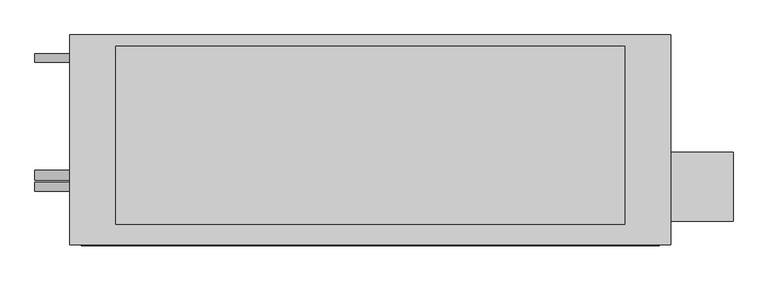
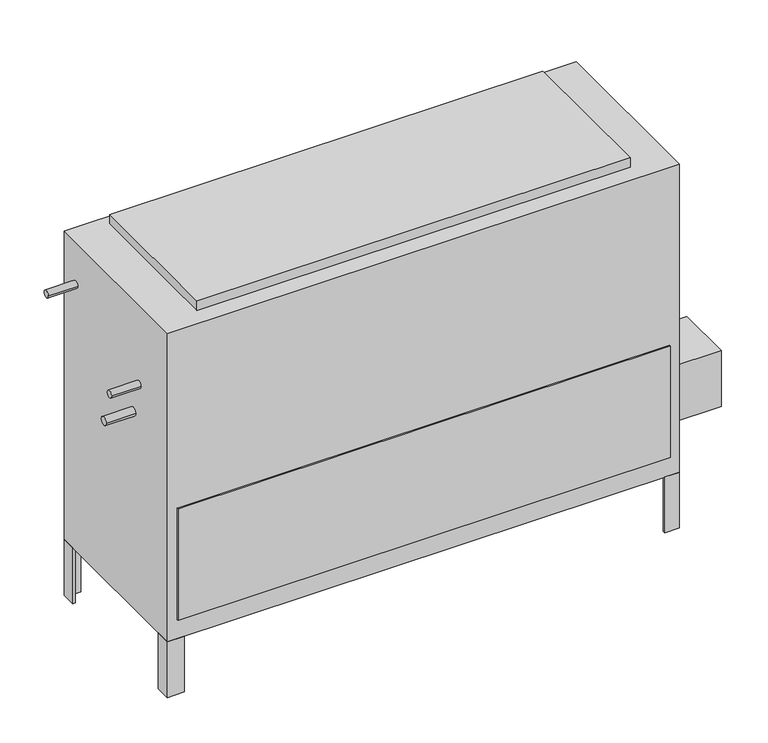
"""IFC4 building model written with IfcOpenShell, lengths in millimetres: proxy geometry, Concealed_High_Capacity_Vertical_Fan_Coil_Unit_-_42DDA_-_CARRIER_-_2-Pipe_Cool-EHeat_LH_2022 : Size 18 - 277v/60Hz/1Ph - 6 Row 12.0kW."""

from ifc_helpers import new_model, si_unit, point, frame, frame_2d, origin, origin_with_axes, place, context, project, spatial, polyline, circle_curve, trimmed, segment, composite_curve, outline, extrude, source, transform, mapped, element, save


def mechanical_equipment_1c3f9d2c(model_context):
    return source(origin(), model_context, "Body", "SweptSolid", [
        extrude(outline(polyline([(812.8, -417.5125), (812.8, -265.1125), (949.325, -265.1125), (949.325, -417.5125), (812.8, -417.5125)])), frame((0.0, 0.0, 101.6), z_axis=(0.0, 0.0, 1.0), x_axis=(1.0, 0.0, 0.0)), (0.0, 0.0, 1.0), 152.4),
        extrude(outline(polyline([(812.8, -46.0375), (806.45, -46.0375), (806.45, -14.2875), (774.7, -14.2875), (774.7, -7.9375), (812.8, -7.9375), (812.8, -46.0375)])), frame((0.0, 0.0, -152.4), z_axis=(0.0, 0.0, 1.0), x_axis=(1.0, 0.0, 0.0)), (0.0, 0.0, 1.0), 152.4),
        extrude(outline(polyline([(-469.9, -7.9375), (-469.9, -14.2875), (-501.65, -14.2875), (-501.65, -46.0375), (-508.0, -46.0375), (-508.0, -7.9375), (-469.9, -7.9375)])), frame((0.0, 0.0, -152.4), z_axis=(0.0, 0.0, 1.0), x_axis=(1.0, 0.0, 0.0)), (0.0, 0.0, 1.0), 152.4),
        extrude(outline(polyline([(774.7, -468.3125), (774.7, -461.9625), (806.45, -461.9625), (806.45, -430.2125), (812.8, -430.2125), (812.8, -468.3125), (774.7, -468.3125)])), frame((0.0, 0.0, -152.4), z_axis=(0.0, 0.0, 1.0), x_axis=(1.0, 0.0, 0.0)), (0.0, 0.0, 1.0), 152.4),
        extrude(outline(polyline([(-508.0, -428.1199163), (-501.65, -428.1199163), (-501.65, -461.9625), (-464.5318533, -461.9625), (-464.5318533, -468.3125), (-508.0, -468.3125), (-508.0, -428.1199163)])), frame((0.0, 0.0, -152.4), z_axis=(0.0, 0.0, 1.0), x_axis=(1.0, 0.0, 0.0)), (0.0, 0.0, 1.0), 152.4),
        extrude(outline(polyline([(711.2, -33.3375), (711.2, -423.8625), (-406.4, -423.8625), (-406.4, -33.3375), (711.2, -33.3375)])), frame((0.0, 0.0, 841.375), z_axis=(0.0, 0.0, 1.0), x_axis=(1.0, 0.0, 0.0)), (0.0, 0.0, 1.0), 25.4),
        extrude(outline(polyline([(787.4, -471.4875), (-482.6, -471.4875), (-482.6, -468.3125), (787.4, -468.3125), (787.4, -471.4875)])), frame((0.0, 0.0, 50.8), z_axis=(0.0, 0.0, 1.0), x_axis=(1.0, 0.0, 0.0)), (0.0, 0.0, 1.0), 304.8),
        extrude(outline(composite_curve([segment(trimmed(circle_curve(frame_2d((-58.7375, 727.075)), 9.525), [point((-68.2625, 727.075))], [point((-49.2125, 727.075))], False, "CARTESIAN"), True, "CONTINUOUS"), segment(trimmed(circle_curve(frame_2d((-58.7375, 727.075)), 9.525), [point((-49.2125, 727.075))], [point((-68.2625, 727.075))], False, "CARTESIAN"), True, "CONTINUOUS")], self_intersect=False)), frame((-584.2, 0.0, 0.0), z_axis=(1.0, 0.0, 0.0), x_axis=(0.0, 1.0, 0.0)), (0.0, 0.0, 1.0), 76.2),
        extrude(outline(composite_curve([segment(trimmed(circle_curve(frame_2d((-341.3125, 625.475)), 9.525), [point((-350.8375, 625.475))], [point((-331.7875, 625.475))], False, "CARTESIAN"), True, "CONTINUOUS"), segment(trimmed(circle_curve(frame_2d((-341.3125, 625.475)), 9.525), [point((-331.7875, 625.475))], [point((-350.8375, 625.475))], False, "CARTESIAN"), True, "CONTINUOUS")], self_intersect=False)), frame((-584.2, 0.0, 0.0), z_axis=(1.0, 0.0, 0.0), x_axis=(0.0, 1.0, 0.0)), (0.0, 0.0, 1.0), 76.2),
        extrude(outline(composite_curve([segment(trimmed(circle_curve(frame_2d((-315.9125, 536.575)), 11.1125), [point((-327.025, 536.575))], [point((-304.8, 536.575))], False, "CARTESIAN"), True, "CONTINUOUS"), segment(trimmed(circle_curve(frame_2d((-315.9125, 536.575)), 11.1125), [point((-304.8, 536.575))], [point((-327.025, 536.575))], False, "CARTESIAN"), True, "CONTINUOUS")], self_intersect=False)), frame((-584.2, 0.0, 0.0), z_axis=(1.0, 0.0, 0.0), x_axis=(0.0, 1.0, 0.0)), (0.0, 0.0, 1.0), 76.2),
        extrude(outline(polyline([(812.8, -7.9375), (812.8, -468.3125), (-508.0, -468.3125), (-508.0, -7.9375), (812.8, -7.9375)])), origin_with_axes(), (0.0, 0.0, 1.0), 841.375),
    ])


if __name__ == "__main__":
    model = new_model("IFC4")
    model_context = context("Model", 3, world=origin())
    ifc_project = project(units=[si_unit("LENGTHUNIT", "METRE", prefix="MILLI")], contexts=[model_context])
    site = spatial("IfcSite", under=ifc_project)
    building = spatial("IfcBuilding", under=site)
    placement = place(None, origin())
    mechanical_equipment_shape = mechanical_equipment_1c3f9d2c(model_context)
    element("IfcBuildingElementProxy", 1, Name="Concealed_High_Capacity_Vertical_Fan_Coil_Unit_-_42DDA_-_CARRIER_-_2-Pipe_Cool-EHeat_LH_2022 : Size 18 - 277v/60Hz/1Ph - 6 Row 12.0kW", ObjectType="Concealed_High_Capacity_Vertical_Fan_Coil_Unit_-_42DDA_-_CARRIER_-_2-Pipe_Cool-EHeat_LH_2022 : Size 18 - 277v/60Hz/1Ph - 6 Row 12.0kW", at=placement, inside=building, context=model_context, shape_type="MappedRepresentation", body=[
        mapped(mechanical_equipment_shape, transform((0.0, 0.0, 0.0), x_axis=(1.0, 0.0, 0.0), y_axis=(0.0, 1.0, 0.0), z_axis=(0.0, 0.0, 1.0))),
    ])
    save(model, "model.ifc")
